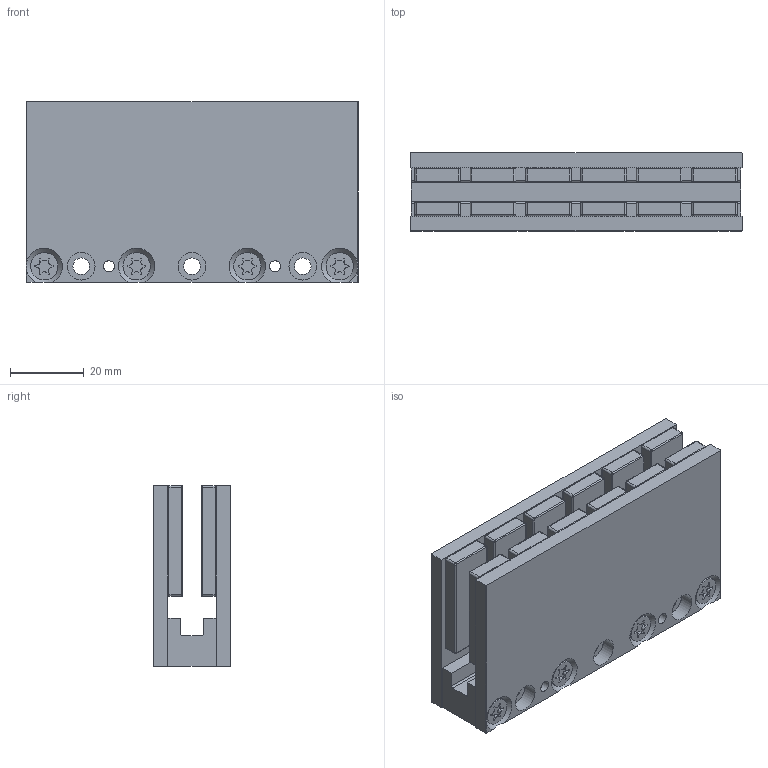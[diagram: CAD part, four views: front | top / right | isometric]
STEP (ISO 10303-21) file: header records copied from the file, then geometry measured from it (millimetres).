
FILE_DESCRIPTION( ( '-' ), '1' );
FILE_NAME( 'C:/Users/peikelboom/Desktop/STEP Files/Ironless/UM/Iron Less_UM 90 mm_MagnetYoke 160607.stp', '20-04-2016', ( 'P.Eikelboom' ), ( 'Technotion' ), 'PSStep 16.0.42', '-', ' ' );
FILE_SCHEMA( ( 'AUTOMOTIVE_DESIGN { 1 0 10303 214 1 1 1 1 }' ) );
Length unit declared in the file: millimetre
Products named in the file (1): 4022 363 50134_130705-oa11
Bounding box: 89.9 x 21.1 x 49 mm (x, y, z)
Surface area: 27653.4 mm2 (no closed solid volume)
Topology: 0 solids, 639 shells, 639 faces, 3025 edges, 2948 vertices
Faces by surface type: cylinder 285, plane 224, bspline 96, cone 34
Full cylindrical faces by diameter (mm): 3 x6, 3.3 x4, 4 x8, 4.5 x11, 7.4 x8, 7.5 x6
Entity records: 36362 total; most frequent: CARTESIAN_POINT 8096, DIRECTION 5364, ORIENTED_EDGE 2908, EDGE_CURVE 2908, VERTEX_POINT 2908, AXIS2_PLACEMENT_3D 1936, LINE 1492, VECTOR 1492
